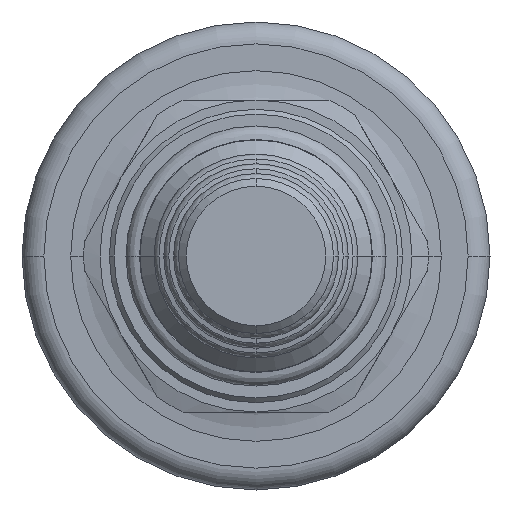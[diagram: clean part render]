
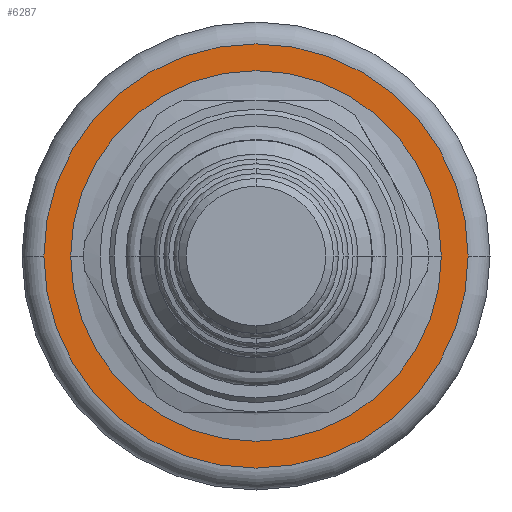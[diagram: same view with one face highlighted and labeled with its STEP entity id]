
A CAD part, front view. The second image highlights one B-rep face of the part: STEP entity #6287.
In plain terms, the highlighted planar face has unit normal (0, -1, 0).
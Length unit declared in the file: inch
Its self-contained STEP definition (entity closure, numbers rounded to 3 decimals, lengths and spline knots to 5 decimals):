
#2641=CARTESIAN_POINT('',(0.,3.219,0.));
#2642=DIRECTION('',(0.,1.,0.));
#2643=DIRECTION('',(-1.,0.,0.));
#2644=AXIS2_PLACEMENT_3D('',#2641,#2642,#2643);
#2656=CARTESIAN_POINT('',(0.,3.219,0.));
#2657=DIRECTION('',(0.,-1.,0.));
#2658=DIRECTION('',(-1.,0.,0.));
#2659=AXIS2_PLACEMENT_3D('',#2656,#2657,#2658);
#2661=CARTESIAN_POINT('',(0.,3.219,0.));
#2662=DIRECTION('',(0.,1.,0.));
#2663=DIRECTION('',(-1.,0.,0.));
#2664=AXIS2_PLACEMENT_3D('',#2661,#2662,#2663);
#2666=CARTESIAN_POINT('',(0.,3.219,0.));
#2667=DIRECTION('',(0.,-1.,0.));
#2668=DIRECTION('',(-1.,0.,0.));
#2669=AXIS2_PLACEMENT_3D('',#2666,#2667,#2668);
#3120=CARTESIAN_POINT('',(-0.68,3.219,0.));
#3122=VERTEX_POINT('',#3120);
#3123=CARTESIAN_POINT('',(-0.594,3.219,0.));
#3125=VERTEX_POINT('',#3123);
#3130=CARTESIAN_POINT('',(0.68,3.219,0.));
#3132=VERTEX_POINT('',#3130);
#3133=CARTESIAN_POINT('',(0.594,3.219,0.));
#3135=VERTEX_POINT('',#3133);
#6272=CARTESIAN_POINT('',(0.,3.219,0.));
#6273=DIRECTION('',(0.,1.,0.));
#6274=DIRECTION('',(1.,0.,0.));
#6275=AXIS2_PLACEMENT_3D('',#6272,#6273,#6274);
#6276=PLANE('',#6275);
#6278=ORIENTED_EDGE('',*,*,#6277,.T.);
#6280=ORIENTED_EDGE('',*,*,#6279,.F.);
#6281=EDGE_LOOP('',(#6278,#6280));
#6282=FACE_OUTER_BOUND('',#6281,.F.);
#6283=ORIENTED_EDGE('',*,*,#6267,.T.);
#6284=ORIENTED_EDGE('',*,*,#6251,.F.);
#6285=EDGE_LOOP('',(#6283,#6284));
#6286=FACE_BOUND('',#6285,.F.);
#6287=ADVANCED_FACE('',(#6282,#6286),#6276,.F.);
#2645=CIRCLE('',#2644,0.594);
#2660=CIRCLE('',#2659,0.594);
#2665=CIRCLE('',#2664,0.68);
#2670=CIRCLE('',#2669,0.68);
#6251=EDGE_CURVE('',#3125,#3135,#2645,.T.);
#6267=EDGE_CURVE('',#3125,#3135,#2660,.T.);
#6277=EDGE_CURVE('',#3122,#3132,#2665,.T.);
#6279=EDGE_CURVE('',#3122,#3132,#2670,.T.);
